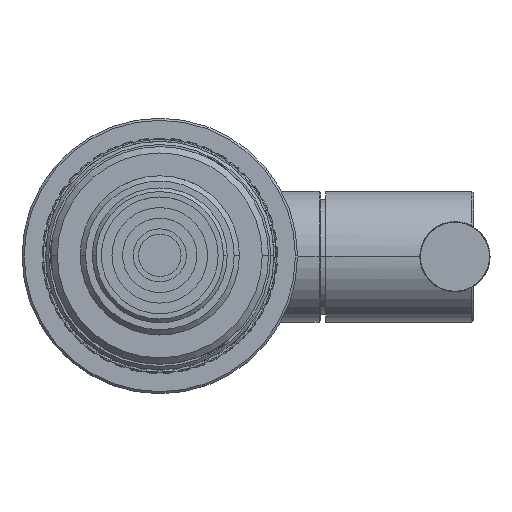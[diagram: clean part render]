
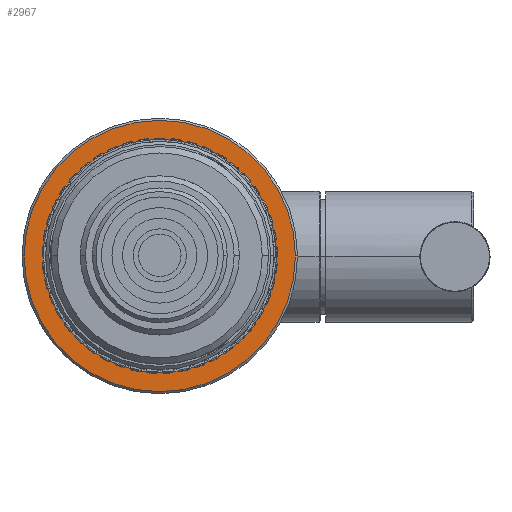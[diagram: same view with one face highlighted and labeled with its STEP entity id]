
A CAD part, top view. The second image highlights one B-rep face of the part: STEP entity #2967.
In plain terms, the highlighted planar face has unit normal (0, 0, 1).
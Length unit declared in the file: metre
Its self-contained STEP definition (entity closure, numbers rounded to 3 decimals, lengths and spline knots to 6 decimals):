
#2967=ADVANCED_FACE('0:4418',(#11953,#11954),#11955,.F.);
#11953=FACE_OUTER_BOUND('',#27644,.T.);
#11954=FACE_BOUND('',#27645,.T.);
#11955=PLANE('',#27646);
#27644=EDGE_LOOP('',(#63467,#63468));
#27645=EDGE_LOOP('',(#63469,#63470));
#27646=AXIS2_PLACEMENT_3D('',#63471,#63472,#63473);
#63467=ORIENTED_EDGE('',*,*,#100464,.F.);
#63468=ORIENTED_EDGE('',*,*,#89611,.F.);
#63469=ORIENTED_EDGE('',*,*,#100254,.F.);
#63470=ORIENTED_EDGE('',*,*,#90061,.F.);
#63471=CARTESIAN_POINT('',(0.,0.,0.02935));
#63472=DIRECTION('',(0.0,0.,-1.0));
#63473=DIRECTION('',(0.0,1.0,0.));
#89611=EDGE_CURVE('0:32450',#106123,#106126,#106127,.T.);
#90061=EDGE_CURVE('0:31544',#106966,#106969,#106970,.T.);
#100254=EDGE_CURVE('0:31544',#106969,#106966,#124806,.T.);
#100464=EDGE_CURVE('0:32450',#106126,#106123,#125102,.T.);
#106123=VERTEX_POINT('',#133792);
#106126=VERTEX_POINT('',#133796);
#106127=CIRCLE('',#133797,0.02555);
#106966=VERTEX_POINT('',#136095);
#106969=VERTEX_POINT('',#136099);
#106970=CIRCLE('',#136100,0.022);
#124806=CIRCLE('',#222870,0.022);
#125102=CIRCLE('',#223892,0.02555);
#133792=CARTESIAN_POINT('',(-0.02555,0.,0.02935));
#133796=CARTESIAN_POINT('',(0.02555,0.,0.02935));
#133797=AXIS2_PLACEMENT_3D('',#237517,#237518,#237519);
#136095=CARTESIAN_POINT('',(-0.022,0.,0.02935));
#136099=CARTESIAN_POINT('',(0.022,0.,0.02935));
#136100=AXIS2_PLACEMENT_3D('',#238247,#238248,#238249);
#222870=AXIS2_PLACEMENT_3D('',#249116,#249117,#249118);
#223892=AXIS2_PLACEMENT_3D('',#249524,#249525,#249526);
#237517=CARTESIAN_POINT('',(0.,0.,0.02935));
#237518=DIRECTION('',(0.0,0.,-1.0));
#237519=DIRECTION('',(-1.0,0.0,0.0));
#238247=CARTESIAN_POINT('',(0.,0.,0.02935));
#238248=DIRECTION('',(0.0,0.,1.0));
#238249=DIRECTION('',(-1.0,0.0,0.0));
#249116=CARTESIAN_POINT('',(0.,0.,0.02935));
#249117=DIRECTION('',(0.0,0.,1.0));
#249118=DIRECTION('',(-1.0,0.0,0.0));
#249524=CARTESIAN_POINT('',(0.,0.,0.02935));
#249525=DIRECTION('',(0.0,0.,-1.0));
#249526=DIRECTION('',(-1.0,0.0,0.0));
